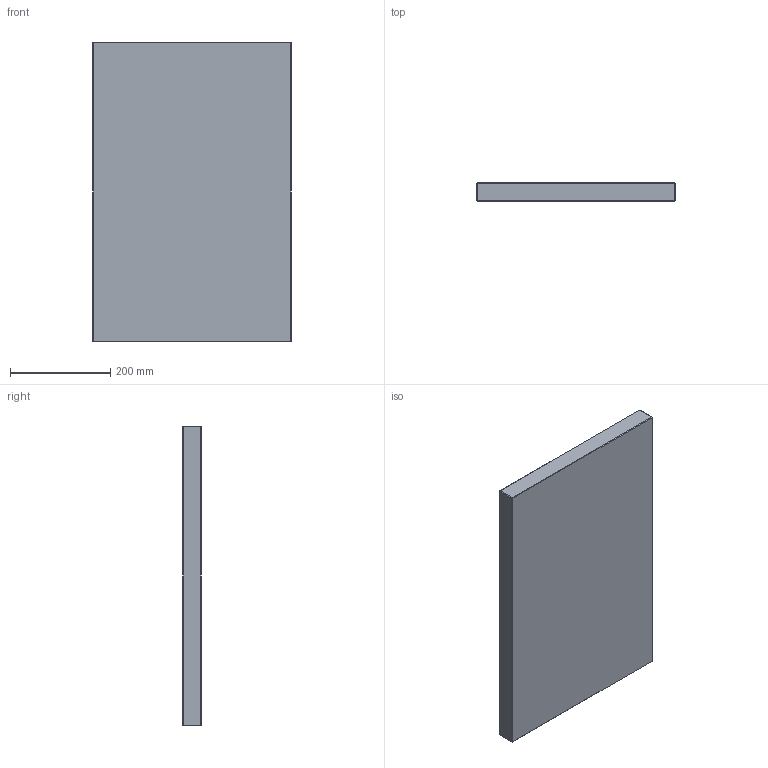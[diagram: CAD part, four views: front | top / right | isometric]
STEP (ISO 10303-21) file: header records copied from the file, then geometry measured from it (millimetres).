
FILE_DESCRIPTION (( 'STEP AP214' ), '1' );
FILE_NAME ('PBAV-P-396x496x36.STEP', '2020-03-25T16:44:00', ( 'August' ), ( '' ), 'SwSTEP 2.0', 'SolidWorks 2018', '' );
FILE_SCHEMA (( 'AUTOMOTIVE_DESIGN' ));
Length unit declared in the file: millimetre
Products named in the file (1): PBAV-P-396x496x36
Bounding box: 396 x 36 x 596 mm (x, y, z)
Volume: 8494525.3 mm3; surface area: 541044.2 mm2
Topology: 1 solids, 1 shells, 26 faces, 48 edges, 24 vertices
Faces by surface type: plane 26
Entity records: 634 total; most frequent: DIRECTION 102, CARTESIAN_POINT 99, ORIENTED_EDGE 96, EDGE_CURVE 48, LINE 48, VECTOR 48, AXIS2_PLACEMENT_3D 27, FACE_OUTER_BOUND 26
